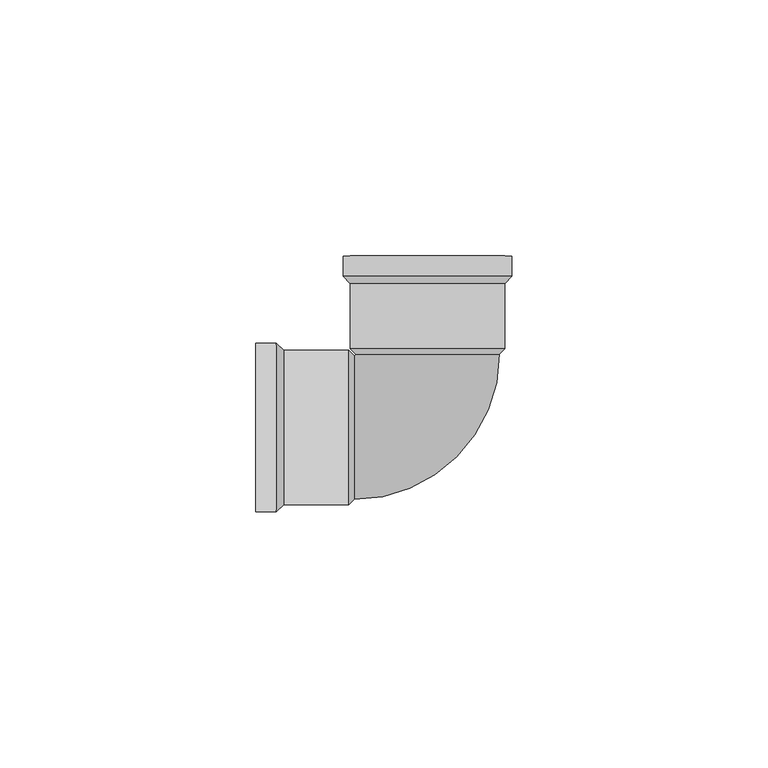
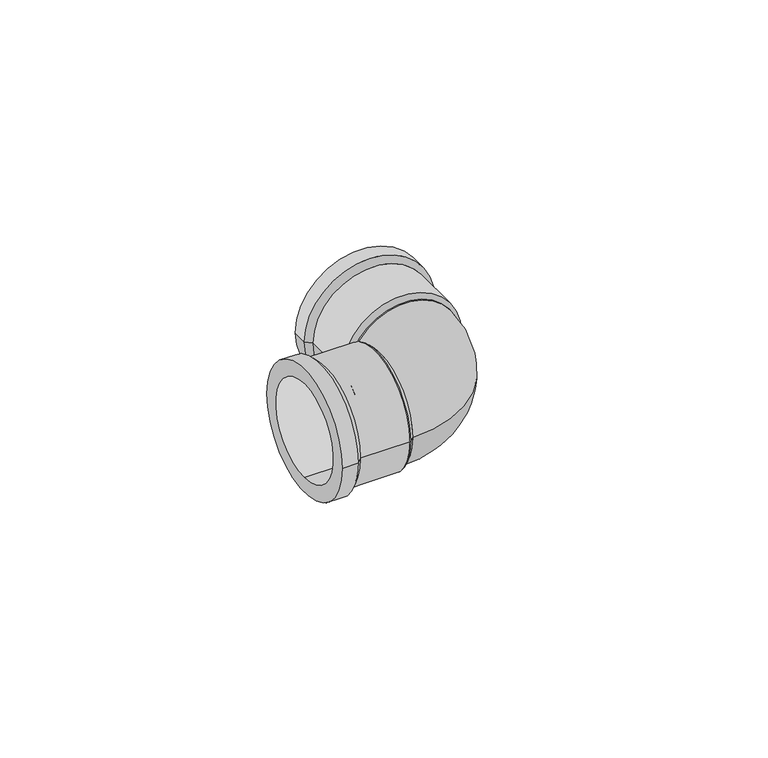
"""IFC4 building model written with IfcOpenShell, lengths in millimetres: pipe fitting geometry, Joelho 45_90 - Agua Fria_Soldavel : Joelho 45_90 - Agua Fria_Soldavel."""

from ifc_helpers import new_model, si_unit, point, frame, origin, place, context, project, spatial, polyline, circle_curve, ellipse_curve, trimmed, source, transform, mapped, element, save
from ifc_brep_helpers import plane_surface, cylinder_surface, revolved_surface, advanced_brep


def pipe_fitting_cfdc0b9c(model_context):
    return source(origin(), model_context, "Body", "AdvancedBrep", [
        advanced_brep(
        [(15.1, 15.4, 0.0), (-15.1, 15.4, 0.0), (14.04, 14.3, 0.0), (-14.04, 14.3, 0.0)],
        [
            (0, 1, circle_curve(frame((0.0, 15.4, 0.0), z_axis=(-1.0363183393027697e-11, 1.0, 0.0), x_axis=(1.0, 1.0363142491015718e-11, 0.0)), 15.1)),
            (1, 0, circle_curve(frame((0.0, 15.4, 0.0), z_axis=(-1.036323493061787e-11, 1.0, 0.0), x_axis=(-1.0, -1.0363302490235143e-11, 0.0)), 15.1)),
            (2, 3, circle_curve(frame((0.0, 14.3, 0.0), z_axis=(1.036323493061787e-11, -1.0, 0.0), x_axis=(-1.0, -1.0363302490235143e-11, 0.0)), 14.04)),
            (3, 2, circle_curve(frame((0.0, 14.3, 0.0), z_axis=(1.0363183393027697e-11, -1.0, 0.0), x_axis=(1.0, 1.0363142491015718e-11, 0.0)), 14.04)),
            (3, 1),
            (0, 2),
        ],
        [
            plane_surface(frame((0.0, 15.4, 0.0), z_axis=(0.0, 1.0, 0.0), x_axis=(0.0, 0.0, -1.0))),
            plane_surface(frame((0.0, 14.3, 0.0), z_axis=(0.0, -1.0, 0.0), x_axis=(0.0, 0.0, -1.0))),
            revolved_surface(polyline([(-14.03999999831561, 14.299999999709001, 0.0), (-15.1, 15.4, 0.0)]), (0.0, -0.2698113, 0.0), (-1.0363183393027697e-11, 1.0, 0.0)),
            revolved_surface(polyline([(14.039999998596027, 14.3, 0.0), (15.100000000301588, 15.400000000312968, 0.0)]), (0.0, -0.2698113, 0.0), (-1.036323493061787e-11, 1.0, 0.0)),
        ],
        [
            (0, [[1, 2]]),
            (1, [[3, 4]]),
            (2, [[-4, 5, -1, 6]]),
            (3, [[-3, -6, -2, -5]]),
        ],
    ),
        advanced_brep(
        [(-15.4, 15.1, 0.0), (-15.4, -15.1, 0.0), (-14.3, 14.04, 0.0), (-14.3, -14.04, 0.0)],
        [
            (0, 1, circle_curve(frame((-15.4, 0.0, 0.0), z_axis=(-1.0, 0.0, 0.0), x_axis=(0.0, 1.0, 0.0)), 15.1)),
            (1, 0, circle_curve(frame((-15.4, 0.0, 0.0), z_axis=(-1.0, 0.0, 0.0), x_axis=(0.0, -1.0, 0.0)), 15.1)),
            (2, 3, circle_curve(frame((-14.3, 0.0, 0.0), z_axis=(1.0, 0.0, 0.0), x_axis=(0.0, -1.0, 0.0)), 14.04)),
            (3, 2, circle_curve(frame((-14.3, 0.0, 0.0), z_axis=(1.0, 0.0, 0.0), x_axis=(0.0, 1.0, 0.0)), 14.04)),
            (3, 1),
            (0, 2),
        ],
        [
            plane_surface(frame((-15.4, 0.0, 0.0), z_axis=(-1.0, 0.0, 0.0), x_axis=(0.0, 0.0, -1.0))),
            plane_surface(frame((-14.3, 0.0, 0.0), z_axis=(1.0, 0.0, 0.0), x_axis=(0.0, 0.0, -1.0))),
            revolved_surface(polyline([(-14.3, -14.039999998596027, 0.0), (-15.4, -15.1, 0.0)]), (0.2698113, 0.0, 0.0), (-1.0, 0.0, 0.0)),
            revolved_surface(polyline([(-14.3, 14.039999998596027, 0.0), (-15.4, 15.1, 0.0)]), (0.2698113, 0.0, 0.0), (-1.0, 0.0, 0.0)),
        ],
        [
            (0, [[1, 2]]),
            (1, [[3, 4]]),
            (2, [[-4, 5, -1, 6]]),
            (3, [[-3, -6, -2, -5]]),
        ],
    ),
        advanced_brep(
        [(-33.5, 16.5, 0.0), (-33.5, -16.5, 0.0), (-33.5, 0.0, 12.5), (-33.5, 0.0, -12.5), (-29.5, -16.5, 0.0), (-29.5, 16.5, 0.0), (-28.1, 15.1, 0.0), (-28.1, -15.1, 0.0), (-15.4, 15.1, 0.0), (-15.4, -15.1, 0.0), (-15.4, 0.0, -12.5), (-15.4, 0.0, 12.5)],
        [
            (0, 1, circle_curve(frame((-33.5, 0.0, 0.0), z_axis=(-1.0, 0.0, 0.0), x_axis=(0.0, -1.0, 0.0)), 16.5)),
            (1, 0, circle_curve(frame((-33.5, 0.0, 0.0), z_axis=(-1.0, 0.0, 0.0), x_axis=(0.0, -1.0, 0.0)), 16.5)),
            (2, 3, circle_curve(frame((-33.5, 0.0, 0.0), z_axis=(1.0, 0.0, 0.0), x_axis=(0.0, 0.0, -1.0)), 12.5)),
            (3, 2, circle_curve(frame((-33.5, 0.0, 0.0), z_axis=(1.0, 0.0, 0.0), x_axis=(0.0, 0.0, -1.0)), 12.5)),
            (1, 4),
            (4, 5, circle_curve(frame((-29.5, 0.0, 0.0), z_axis=(-1.0, 0.0, 0.0), x_axis=(0.0, -1.0, 0.0)), 16.5)),
            (5, 0),
            (5, 4, circle_curve(frame((-29.5, 0.0, 0.0), z_axis=(-1.0, 0.0, 0.0), x_axis=(0.0, -1.0, 0.0)), 16.5)),
            (6, 5),
            (4, 7),
            (7, 6, circle_curve(frame((-28.1, 0.0, 0.0), z_axis=(-1.0, 0.0, 0.0), x_axis=(0.0, -1.0, 0.0)), 15.1)),
            (6, 7, circle_curve(frame((-28.1, 0.0, 0.0), z_axis=(-1.0, 0.0, 0.0), x_axis=(0.0, 1.0, 0.0)), 15.1)),
            (8, 9, circle_curve(frame((-15.4, 0.0, 0.0), z_axis=(1.0, 0.0, 0.0), x_axis=(0.0, -1.0, 0.0)), 15.1)),
            (9, 8, circle_curve(frame((-15.4, 0.0, 0.0), z_axis=(1.0, 0.0, 0.0), x_axis=(0.0, -1.0, 0.0)), 15.1)),
            (10, 11, circle_curve(frame((-15.4, 0.0, 0.0), z_axis=(-1.0, 0.0, 0.0), x_axis=(0.0, 0.0, -1.0)), 12.5)),
            (11, 10, circle_curve(frame((-15.4, 0.0, 0.0), z_axis=(-1.0, 0.0, 0.0), x_axis=(0.0, 0.0, -1.0)), 12.5)),
            (8, 6),
            (7, 9),
            (10, 3),
            (2, 11),
        ],
        [
            plane_surface(frame((-33.5, 0.0, 0.0), z_axis=(-1.0, 0.0, 0.0), x_axis=(0.0, 0.0, 1.0))),
            cylinder_surface(frame((-29.5, 0.0, 0.0), z_axis=(1.0, 0.0, 0.0), x_axis=(0.0, -1.0, 0.0)), 16.5),
            revolved_surface(polyline([(-28.1, 15.100000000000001, 0.0), (-29.5, 16.5, 0.0)]), (-13.0, 0.0, 0.0), (-1.0, 0.0, 0.0)),
            plane_surface(frame((-15.4, 0.0, 0.0), z_axis=(1.0, 0.0, 0.0), x_axis=(0.0, 0.0, 1.0))),
            cylinder_surface(frame((-15.4, 0.0, 0.0), z_axis=(1.0, 0.0, 0.0), x_axis=(0.0, -1.0, 0.0)), 15.1),
            revolved_surface(polyline([(-15.399999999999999, 0.0, -12.5), (-33.5, 0.0, -12.5)]), (-33.5, 0.0, 0.0), (1.0, 0.0, 0.0)),
        ],
        [
            (0, [[1, 2], [3, 4]]),
            (1, [[-2, 5, 6, 7]]),
            (1, [[-1, -7, 8, -5]]),
            (2, [[9, -6, 10, 11]]),
            (2, [[-9, 12, -10, -8]]),
            (3, [[13, 14], [15, 16]]),
            (4, [[-13, 17, -11, 18]]),
            (4, [[-14, -18, -12, -17]]),
            (5, [[19, -3, 20, -15]]),
            (5, [[-19, -16, -20, -4]]),
        ],
    ),
        advanced_brep(
        [(-14.3, -14.04, 0.0), (-14.3, 14.04, 0.0), (14.04, 14.3, 0.0), (-14.04, 14.3, 0.0)],
        [
            (0, 1, circle_curve(frame((-14.3, 0.0, 0.0), z_axis=(-1.0, 0.0, 0.0), x_axis=(0.0, 1.0, 0.0)), 14.04)),
            (1, 0, circle_curve(frame((-14.3, 0.0, 0.0), z_axis=(-1.0, 0.0, 0.0), x_axis=(0.0, 1.0, 0.0)), 14.04)),
            (2, 3, circle_curve(frame((0.0, 14.3, 0.0), z_axis=(0.0, 1.0, 0.0), x_axis=(-1.0, 0.0, 0.0)), 14.04)),
            (3, 2, circle_curve(frame((0.0, 14.3, 0.0), z_axis=(0.0, 1.0, 0.0), x_axis=(-1.0, 0.0, 0.0)), 14.04)),
            (0, 2, circle_curve(frame((-14.3, 14.3, 0.0), z_axis=(0.0, 0.0, 1.0), x_axis=(0.0, -1.0, 0.0)), 28.34)),
            (3, 1, circle_curve(frame((-14.3, 14.3, 0.0), z_axis=(0.0, 0.0, -1.0), x_axis=(0.0, -1.0, 0.0)), 0.26)),
        ],
        [
            plane_surface(frame((-14.3, 0.0, 0.0), z_axis=(-1.0, 0.0, 0.0), x_axis=(0.0, 0.0, 1.0))),
            plane_surface(frame((0.0, 14.3, 0.0), z_axis=(0.0, 1.0, 0.0), x_axis=(0.0, 0.0, 1.0))),
            revolved_surface(trimmed(ellipse_curve(frame((-14.3, 0.0, 0.0), z_axis=(-1.0, 0.0, 0.0), x_axis=(0.0, 1.0, 0.0)), 14.04, 14.04), [point((-14.3, -14.04, 0.0))], [point((-14.3, 14.04, 0.0))], True, "CARTESIAN"), (-14.3, 14.3, 0.0), (0.0, 0.0, 1.0)),
            revolved_surface(trimmed(ellipse_curve(frame((-14.3, 0.0, 0.0), z_axis=(-1.0, 0.0, 0.0), x_axis=(0.0, 1.0, 0.0)), 14.04, 14.04), [point((-14.3, 14.04, 0.0))], [point((-14.3, -14.04, 0.0))], True, "CARTESIAN"), (-14.3, 14.3, 0.0), (0.0, 0.0, 1.0)),
        ],
        [
            (0, [[1, 2]]),
            (1, [[3, 4]]),
            (2, [[-1, 5, -4, 6]]),
            (3, [[-2, -6, -3, -5]]),
        ],
    ),
        advanced_brep(
        [(15.1, 15.4, 0.0), (-15.1, 15.4, 0.0), (0.0, 15.4, -12.5), (0.0, 15.4, 12.5), (15.1, 28.1, 0.0), (-15.1, 28.1, 0.0), (16.5, 29.5, 0.0), (-16.5, 29.5, 0.0), (16.5, 33.5, 0.0), (-16.5, 33.5, 0.0), (0.0, 33.5, 12.5), (0.0, 33.5, -12.5)],
        [
            (0, 1, circle_curve(frame((0.0, 15.4, 0.0), z_axis=(0.0, -1.0, 0.0), x_axis=(-1.0, 0.0, 0.0)), 15.1)),
            (1, 0, circle_curve(frame((0.0, 15.4, 0.0), z_axis=(0.0, -1.0, 0.0), x_axis=(-1.0, 0.0, 0.0)), 15.1)),
            (2, 3, circle_curve(frame((0.0, 15.4, 0.0), z_axis=(0.0, 1.0, 0.0), x_axis=(0.0, 0.0, -1.0)), 12.5)),
            (3, 2, circle_curve(frame((0.0, 15.4, 0.0), z_axis=(0.0, 1.0, 0.0), x_axis=(0.0, 0.0, -1.0)), 12.5)),
            (0, 4),
            (4, 5, circle_curve(frame((0.0, 28.1, 0.0), z_axis=(0.0, -1.0, 0.0), x_axis=(-1.0, 0.0, 0.0)), 15.1)),
            (5, 1),
            (5, 4, circle_curve(frame((0.0, 28.1, 0.0), z_axis=(0.0, -1.0, 0.0), x_axis=(-1.0, 0.0, 0.0)), 15.1)),
            (4, 6),
            (6, 7, circle_curve(frame((0.0, 29.5, 0.0), z_axis=(0.0, -1.0, 0.0), x_axis=(-1.0, 0.0, 0.0)), 16.5)),
            (7, 5),
            (7, 6, circle_curve(frame((0.0, 29.5, 0.0), z_axis=(0.0, -1.0, 0.0), x_axis=(1.0, 0.0, 0.0)), 16.5)),
            (8, 9, circle_curve(frame((0.0, 33.5, 0.0), z_axis=(0.0, 1.0, 0.0), x_axis=(-1.0, 0.0, 0.0)), 16.5)),
            (9, 8, circle_curve(frame((0.0, 33.5, 0.0), z_axis=(0.0, 1.0, 0.0), x_axis=(-1.0, 0.0, 0.0)), 16.5)),
            (10, 11, circle_curve(frame((0.0, 33.5, 0.0), z_axis=(0.0, -1.0, 0.0), x_axis=(0.0, 0.0, -1.0)), 12.5)),
            (11, 10, circle_curve(frame((0.0, 33.5, 0.0), z_axis=(0.0, -1.0, 0.0), x_axis=(0.0, 0.0, -1.0)), 12.5)),
            (9, 7),
            (6, 8),
            (2, 11),
            (10, 3),
        ],
        [
            plane_surface(frame((0.0, 15.4, 0.0), z_axis=(0.0, -1.0, 0.0), x_axis=(0.0, 0.0, 1.0))),
            cylinder_surface(frame((0.0, 15.4, 0.0), z_axis=(0.0, -1.0, 0.0), x_axis=(-1.0, 0.0, 0.0)), 15.1),
            revolved_surface(polyline([(15.100000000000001, 28.1, 0.0), (16.5, 29.5, 0.0)]), (0.0, 13.0, 0.0), (0.0, 1.0, 0.0)),
            plane_surface(frame((0.0, 33.5, 0.0), z_axis=(0.0, 1.0, 0.0), x_axis=(0.0, 0.0, 1.0))),
            cylinder_surface(frame((0.0, 29.5, 0.0), z_axis=(0.0, -1.0, 0.0), x_axis=(-1.0, 0.0, 0.0)), 16.5),
            revolved_surface(polyline([(0.0, 15.399999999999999, -12.5), (0.0, 33.5, -12.5)]), (0.0, 33.5, 0.0), (0.0, -1.0, 0.0)),
        ],
        [
            (0, [[1, 2], [3, 4]]),
            (1, [[-1, 5, 6, 7]]),
            (1, [[-2, -7, 8, -5]]),
            (2, [[9, 10, 11, -6]]),
            (2, [[-9, -8, -11, 12]]),
            (3, [[13, 14], [15, 16]]),
            (4, [[-14, 17, -10, 18]]),
            (4, [[-13, -18, -12, -17]]),
            (5, [[19, -15, 20, -3]]),
            (5, [[-19, -4, -20, -16]]),
        ],
    ),
    ])


if __name__ == "__main__":
    model = new_model("IFC4")
    model_context = context("Model", 3, world=origin())
    ifc_project = project(units=[si_unit("LENGTHUNIT", "METRE", prefix="MILLI")], contexts=[model_context])
    site = spatial("IfcSite", under=ifc_project)
    building = spatial("IfcBuilding", under=site)
    placement = place(None, origin())
    pipe_fitting_shape = pipe_fitting_cfdc0b9c(model_context)
    element("IfcPipeFitting", 1, ObjectType="Joelho 45_90 - Agua Fria_Soldavel : Joelho 45_90 - Agua Fria_Soldavel", at=placement, inside=building, context=model_context, shape_type="MappedRepresentation", body=[
        mapped(pipe_fitting_shape, transform((0.0, 0.0, 0.0), x_axis=(1.0, 0.0, 0.0), y_axis=(0.0, 1.0, 0.0), z_axis=(0.0, 0.0, 1.0))),
    ])
    save(model, "model.ifc")
